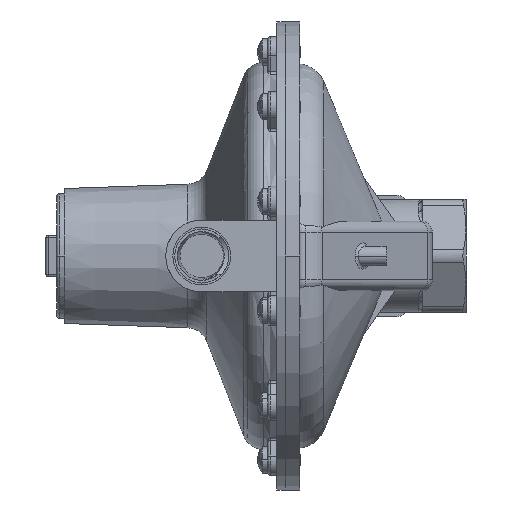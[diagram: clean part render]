
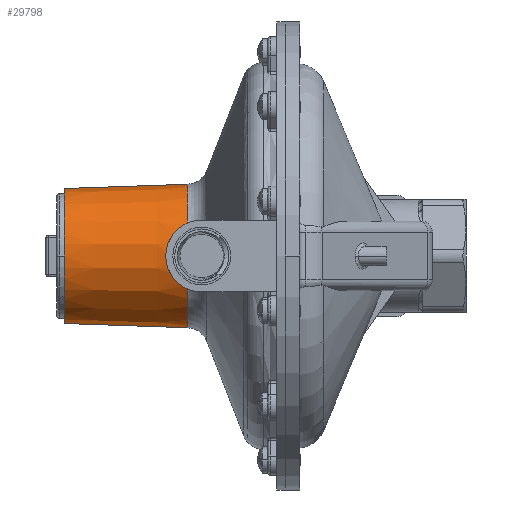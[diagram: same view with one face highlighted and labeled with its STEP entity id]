
A CAD part, left-side view. The second image highlights one B-rep face of the part: STEP entity #29798.
In plain terms, the highlighted conical face has half-angle 1.998 degrees and reference radius 32.971 mm.
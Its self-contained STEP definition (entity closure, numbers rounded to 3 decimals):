
#544 = CARTESIAN_POINT ( 'NONE',  ( -29.43, 48.25, 14.809 ) ) ;
#545 = DIRECTION ( 'NONE',  ( 0., 1., 0. ) ) ;
#660 = CARTESIAN_POINT ( 'NONE',  ( -31.841, 55.687, 7.391 ) ) ;
#767 = CARTESIAN_POINT ( 'NONE',  ( -32.397, 56.942, -4.006 ) ) ;
#883 = CARTESIAN_POINT ( 'NONE',  ( -29.928, 50.297, -13.607 ) ) ;
#3122 = DIRECTION ( 'NONE',  ( 0., -0.999, -0.035 ) ) ;
#3174 = CARTESIAN_POINT ( 'NONE',  ( -29.928, 50.297, 13.607 ) ) ;
#3293 = CARTESIAN_POINT ( 'NONE',  ( -32.19, 56.485, 5.56 ) ) ;
#3399 = CARTESIAN_POINT ( 'NONE',  ( -32.192, 56.489, -5.55 ) ) ;
#3444 = VECTOR ( 'NONE', #14289, 1000. ) ;
#3512 = CARTESIAN_POINT ( 'NONE',  ( -29.431, 48.25, -14.809 ) ) ;
#3565 = FACE_OUTER_BOUND ( 'NONE', #10574, .T. ) ;
#4361 = VERTEX_POINT ( 'NONE', #20410 ) ;
#4551 = LINE ( 'NONE', #31908, #31601 ) ;
#4700 = EDGE_CURVE ( 'NONE', #27979, #4361, #16933, .T. ) ;
#5493 = CARTESIAN_POINT ( 'NONE',  ( 0., 104., -31. ) ) ;
#5836 = CARTESIAN_POINT ( 'NONE',  ( -30.395, 51.843, 12.382 ) ) ;
#5950 = CARTESIAN_POINT ( 'NONE',  ( -32.483, 57.128, 3.246 ) ) ;
#6052 = CARTESIAN_POINT ( 'NONE',  ( -31.842, 55.691, -7.383 ) ) ;
#6120 = CIRCLE ( 'NONE', #28534, 31. ) ;
#6404 = CARTESIAN_POINT ( 'NONE',  ( 0., 47.509, 32.971 ) ) ;
#8467 = CARTESIAN_POINT ( 'NONE',  ( -30.684, 52.708, 11.562 ) ) ;
#8575 = CARTESIAN_POINT ( 'NONE',  ( -32.589, 57.354, 1.629 ) ) ;
#8694 = CARTESIAN_POINT ( 'NONE',  ( -31.6, 55.114, -8.439 ) ) ;
#9204 = VERTEX_POINT ( 'NONE', #6404 ) ;
#9762 = CONICAL_SURFACE ( 'NONE', #12980, 32.971, 0.035 ) ;
#10574 = EDGE_LOOP ( 'NONE', ( #29512, #29272, #33857, #27937, #24841, #30405 ) ) ;
#11116 = CARTESIAN_POINT ( 'NONE',  ( -31.065, 53.768, 10.395 ) ) ;
#11230 = CARTESIAN_POINT ( 'NONE',  ( -32.624, 57.43, 0.414 ) ) ;
#11338 = CARTESIAN_POINT ( 'NONE',  ( -31.251, 54.251, -9.769 ) ) ;
#11787 = CARTESIAN_POINT ( 'NONE',  ( 0., 47.509, 32.971 ) ) ;
#12485 = AXIS2_PLACEMENT_3D ( 'NONE', #16245, #545, #18889 ) ;
#12980 = AXIS2_PLACEMENT_3D ( 'NONE', #17156, #22429, #14519 ) ;
#13735 = CARTESIAN_POINT ( 'NONE',  ( -31.513, 54.903, 8.784 ) ) ;
#13847 = CARTESIAN_POINT ( 'NONE',  ( -32.597, 57.372, -1.604 ) ) ;
#13966 = CARTESIAN_POINT ( 'NONE',  ( -30.685, 52.718, -11.572 ) ) ;
#14289 = DIRECTION ( 'NONE',  ( 0., -0.999, 0.035 ) ) ;
#14519 = DIRECTION ( 'NONE',  ( 0., 0., -1. ) ) ;
#14523 = CARTESIAN_POINT ( 'NONE',  ( 0., 47.509, 0. ) ) ;
#15420 = CARTESIAN_POINT ( 'NONE',  ( 0., 104., 0. ) ) ;
#16129 = CARTESIAN_POINT ( 'NONE',  ( 0., 104., 31. ) ) ;
#16244 = CARTESIAN_POINT ( 'NONE',  ( -29.293, 47.509, 15.132 ) ) ;
#16245 = CARTESIAN_POINT ( 'NONE',  ( 0., 47.509, 0. ) ) ;
#16350 = CARTESIAN_POINT ( 'NONE',  ( -31.762, 55.502, 7.75 ) ) ;
#16472 = CARTESIAN_POINT ( 'NONE',  ( -32.479, 57.119, -3.213 ) ) ;
#16582 = CARTESIAN_POINT ( 'NONE',  ( -30.111, 50.934, -13.145 ) ) ;
#16933 = B_SPLINE_CURVE_WITH_KNOTS ( 'NONE', 3,
 ( #16244, #544, #18888, #3174, #21501, #5836, #24143, #8467, #26774, #11116, #29428, #13735, #32078, #16350, #660, #18996, #3293, #21608, #5950, #24253, #8575, #26887, #11230, #29539, #13847, #32184, #16472, #767, #19104, #3399, #21721, #6052, #24372, #8694, #27000, #11338, #29654, #13966, #32300, #16582, #883, #19222, #3512, #21830 ),
 .UNSPECIFIED., .F., .F.,
 ( 4, 2, 2, 2, 2, 2, 2, 2, 2, 2, 2, 2, 2, 2, 2, 2, 2, 2, 2, 2, 2, 4 ),
 ( 0., 0.002, 0.005, 0.006, 0.007, 0.01, 0.011, 0.012, 0.015, 0.017, 0.018, 0.019, 0.022, 0.023, 0.024, 0.027, 0.028, 0.029, 0.031, 0.034, 0.036, 0.039 ),
 .UNSPECIFIED. ) ;
#17156 = CARTESIAN_POINT ( 'NONE',  ( 0., 47.509, 0. ) ) ;
#17158 = DIRECTION ( 'NONE',  ( 0., 0., 1. ) ) ;
#18061 = DIRECTION ( 'NONE',  ( 0., 0., 1. ) ) ;
#18246 = CIRCLE ( 'NONE', #30002, 32.971 ) ;
#18888 = CARTESIAN_POINT ( 'NONE',  ( -29.588, 48.954, 14.439 ) ) ;
#18889 = DIRECTION ( 'NONE',  ( 0., 0., 1. ) ) ;
#18996 = CARTESIAN_POINT ( 'NONE',  ( -32.062, 56.199, 6.305 ) ) ;
#19104 = CARTESIAN_POINT ( 'NONE',  ( -32.35, 56.839, -4.396 ) ) ;
#19222 = CARTESIAN_POINT ( 'NONE',  ( -29.588, 48.955, -14.439 ) ) ;
#19406 = EDGE_CURVE ( 'NONE', #32006, #9204, #24362, .T. ) ;
#19418 = EDGE_CURVE ( 'NONE', #27979, #9204, #18246, .T. ) ;
#20279 = CARTESIAN_POINT ( 'NONE',  ( 0., 47.509, -32.971 ) ) ;
#20410 = CARTESIAN_POINT ( 'NONE',  ( -29.293, 47.509, -15.132 ) ) ;
#21501 = CARTESIAN_POINT ( 'NONE',  ( -30.111, 50.935, 13.145 ) ) ;
#21608 = CARTESIAN_POINT ( 'NONE',  ( -32.401, 56.95, 4.031 ) ) ;
#21721 = CARTESIAN_POINT ( 'NONE',  ( -32.063, 56.202, -6.297 ) ) ;
#21830 = CARTESIAN_POINT ( 'NONE',  ( -29.293, 47.509, -15.132 ) ) ;
#22429 = DIRECTION ( 'NONE',  ( 0., -1., 0. ) ) ;
#22814 = CIRCLE ( 'NONE', #12485, 32.971 ) ;
#22935 = VERTEX_POINT ( 'NONE', #5493 ) ;
#23333 = EDGE_CURVE ( 'NONE', #22935, #24124, #4551, .T. ) ;
#23680 = CARTESIAN_POINT ( 'NONE',  ( -29.293, 47.509, 15.132 ) ) ;
#24124 = VERTEX_POINT ( 'NONE', #20279 ) ;
#24143 = CARTESIAN_POINT ( 'NONE',  ( -30.492, 52.139, 12.115 ) ) ;
#24253 = CARTESIAN_POINT ( 'NONE',  ( -32.568, 57.309, 2.036 ) ) ;
#24362 = LINE ( 'NONE', #11787, #3444 ) ;
#24372 = CARTESIAN_POINT ( 'NONE',  ( -31.764, 55.507, -7.741 ) ) ;
#24841 = ORIENTED_EDGE ( 'NONE', *, *, #4700, .F. ) ;
#26774 = CARTESIAN_POINT ( 'NONE',  ( -30.78, 52.981, 11.277 ) ) ;
#26887 = CARTESIAN_POINT ( 'NONE',  ( -32.617, 57.415, 0.818 ) ) ;
#27000 = CARTESIAN_POINT ( 'NONE',  ( -31.514, 54.907, -8.778 ) ) ;
#27937 = ORIENTED_EDGE ( 'NONE', *, *, #32029, .T. ) ;
#27979 = VERTEX_POINT ( 'NONE', #23680 ) ;
#28534 = AXIS2_PLACEMENT_3D ( 'NONE', #15420, #33773, #18061 ) ;
#28580 = EDGE_CURVE ( 'NONE', #22935, #32006, #6120, .T. ) ;
#29272 = ORIENTED_EDGE ( 'NONE', *, *, #28580, .F. ) ;
#29428 = CARTESIAN_POINT ( 'NONE',  ( -31.25, 54.248, 9.772 ) ) ;
#29512 = ORIENTED_EDGE ( 'NONE', *, *, #19406, .F. ) ;
#29539 = CARTESIAN_POINT ( 'NONE',  ( -32.625, 57.43, -0.799 ) ) ;
#29654 = CARTESIAN_POINT ( 'NONE',  ( -31.065, 53.769, -10.394 ) ) ;
#29798 = ADVANCED_FACE ( 'NONE', ( #3565 ), #9762, .T. ) ;
#30002 = AXIS2_PLACEMENT_3D ( 'NONE', #14523, #32872, #17158 ) ;
#30405 = ORIENTED_EDGE ( 'NONE', *, *, #19418, .T. ) ;
#31601 = VECTOR ( 'NONE', #3122, 1000. ) ;
#31908 = CARTESIAN_POINT ( 'NONE',  ( 0., 47.509, -32.971 ) ) ;
#32006 = VERTEX_POINT ( 'NONE', #16129 ) ;
#32029 = EDGE_CURVE ( 'NONE', #24124, #4361, #22814, .T. ) ;
#32078 = CARTESIAN_POINT ( 'NONE',  ( -31.598, 55.11, 8.446 ) ) ;
#32184 = CARTESIAN_POINT ( 'NONE',  ( -32.514, 57.194, -2.81 ) ) ;
#32300 = CARTESIAN_POINT ( 'NONE',  ( -30.489, 52.144, -12.129 ) ) ;
#32872 = DIRECTION ( 'NONE',  ( 0., 1., 0. ) ) ;
#33773 = DIRECTION ( 'NONE',  ( 0., 1., 0. ) ) ;
#33857 = ORIENTED_EDGE ( 'NONE', *, *, #23333, .T. ) ;
